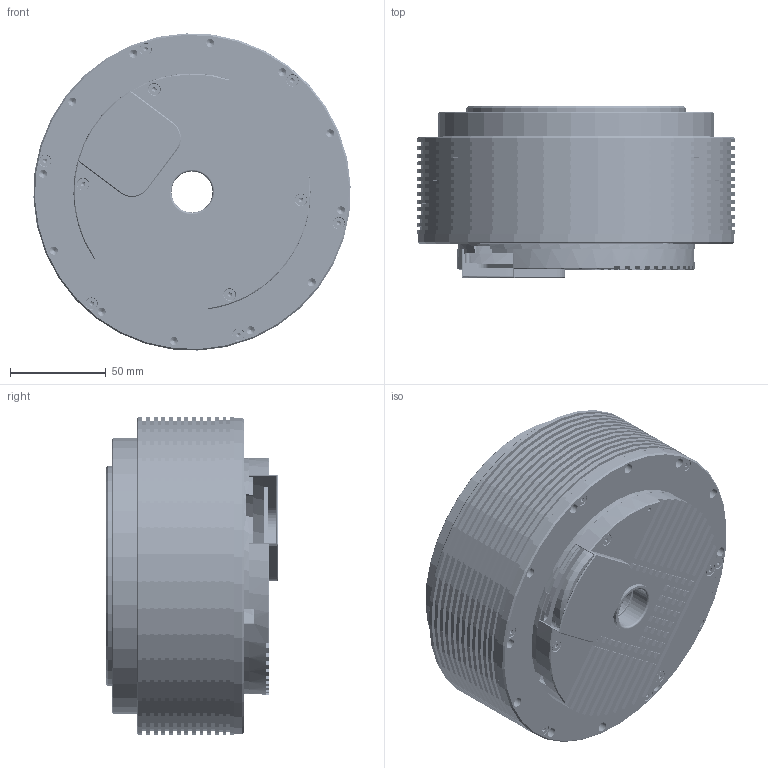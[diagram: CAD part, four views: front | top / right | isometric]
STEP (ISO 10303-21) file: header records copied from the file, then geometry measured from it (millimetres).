
FILE_DESCRIPTION (( 'STEP AP203' ), '1' );
FILE_NAME ('RMD-X15-P20-450.STEP', '2026-02-03T09:04:06', ( '' ), ( '' ), 'SwSTEP 2.0', 'SolidWorks 2020', '' );
FILE_SCHEMA (( 'CONFIG_CONTROL_DESIGN' ));
Length unit declared in the file: millimetre
Products named in the file (36): 菜えD15x18x0.3; 8MT.013.073-V1_Default<偌樓馱>; XMT.101.016-V1_Default<偌樓馱>; XMT.100.008-V1_Default<偌樓馱>; M3X10; XMT.105.016-V1_Default<偌樓馱>; HK1208-V1_Default<偌樓馱>; XMT.112.007_Default<偌樓馱>; 8MT.200.037-V1_Default<偌樓馱>; 8MT.035.007-V1_Default<偌樓馱>; M4X8; 8MT.013.033-V1_Default<偌樓馱>; XMT.105.008-騵艦え-RA_Default<偌樓馱>; XMT.101.008-V1_Default<偌樓馱>; 6806-2Z P5  D30xD42x7-V1_Default<偌樓馱>; 8MT.200.026-V1_Default<偌樓馱>; M2.5X5; 6706-2Z P5  D30xD37x4-V1_Default<偌樓馱>; 137-16沺郋-V1; 菜えD12x20x0.3; XMT.102.008-V1_Default<偌樓馱>; 6802-2Z P5  D15xD24x5-V1_Default<偌樓馱>; XMT.105.024-V1_Default<偌樓馱>; 8MT.034.013-儂釱 D_Default<偌樓馱>; 8MT.391.008-V1; XMT.100.016-V1_Default<偌樓馱>; 俴陎种D12x20; RMD-X15-P20-450; D15X9_Default<偌樓馱>; XMT.104.016-V1_Default<偌樓馱>; XRA 11008-V1_Default<偌樓馱>; 6809-2Z P5  D45xD58x7-V1_Default<偌樓馱>; XMT.104.008-V1_Default<偌樓馱>; M3X16; 3D_X12-X15-ENCODERV1.0_2024-10-19-V1_Default<偌樓馱>; 8MT.013.043-V1_Default<偌樓馱>
Assembly tree (117 placements, depth 2):
  RMD-X15-P20-450
    8MT.034.013-儂釱 D_Default<偌樓馱>
    XMT.104.016-V1_Default<偌樓馱>
    XMT.104.008-V1_Default<偌樓馱>
    XMT.105.016-V1_Default<偌樓馱>
    6806-2Z P5  D30xD42x7-V1_Default<偌樓馱>
    XMT.100.008-V1_Default<偌樓馱>
    XMT.100.016-V1_Default<偌樓馱>
    XMT.101.008-V1_Default<偌樓馱>  x3
    XMT.101.016-V1_Default<偌樓馱>  x3
    XMT.102.008-V1_Default<偌樓馱>
    137-16沺郋-V1
    8MT.391.008-V1  x40
    8MT.013.043-V1_Default<偌樓馱>
    8MT.200.026-V1_Default<偌樓馱>
    8MT.035.007-V1_Default<偌樓馱>
    6809-2Z P5  D45xD58x7-V1_Default<偌樓馱>  x2
    XRA 11008-V1_Default<偌樓馱>
    6706-2Z P5  D30xD37x4-V1_Default<偌樓馱>  x2
    8MT.200.037-V1_Default<偌樓馱>
    XMT.105.024-V1_Default<偌樓馱>
    8MT.013.033-V1_Default<偌樓馱>
    8MT.013.073-V1_Default<偌樓馱>
    3D_X12-X15-ENCODERV1.0_2024-10-19-V1_Default<偌樓馱>
    6802-2Z P5  D15xD24x5-V1_Default<偌樓馱>  x3
    HK1208-V1_Default<偌樓馱>  x3
    XMT.105.008-騵艦え-RA_Default<偌樓馱>
    D15X9_Default<偌樓馱>  x3
    俴陎种D12x20  x3
    菜えD15x18x0.3  x3
    菜えD12x20x0.3  x6
    XMT.112.007_Default<偌樓馱>
    M2.5X5  x4
    M3X16  x4
    M3X10  x6
    M4X8  x12
Bounding box: 165.9 x 90 x 165.9 mm (x, y, z)
Volume: 751167.5 mm3; surface area: 593950.7 mm2
Topology: 116 solids, 179 shells, 5531 faces, 16893 edges, 11668 vertices
Faces by surface type: cylinder 2217, plane 2049, bspline 633, cone 611, torus 16, sphere 5
Full cylindrical faces by diameter (mm): 1.6 x5, 1.9 x1, 2.05 x7, 2.5 x30, 2.9 x7, 3 x10, 3.2 x6, 3.3 x12, 3.4 x4, 4 x14, 4.2 x40, 4.3 x12, 5 x12, 5.3 x12, 5.4 x4, 6 x10, 6.4 x12, 7 x3, 8 x12, 8.6 x12, 12 x18, 15 x12, 16 x6, 18 x9, 20 x6, 21.5 x2, 22 x6, 22.8 x1, 23 x5, 24 x7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
Entity records: 369983 total; most frequent: CARTESIAN_POINT 253057, ORIENTED_EDGE 22741, DIRECTION 21466, EDGE_CURVE 12652, VERTEX_POINT 9195, AXIS2_PLACEMENT_3D 7508, VECTOR 6450, LINE 6450
